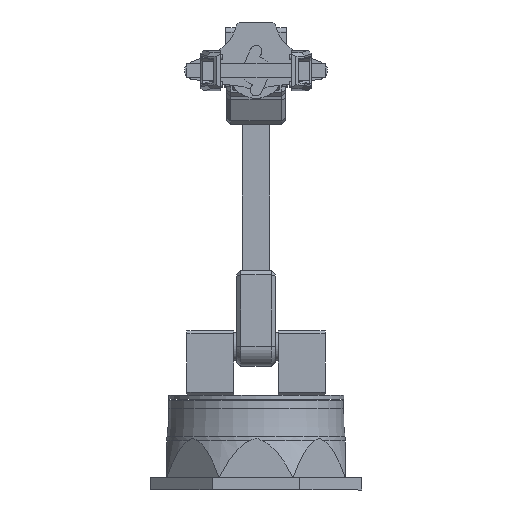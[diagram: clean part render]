
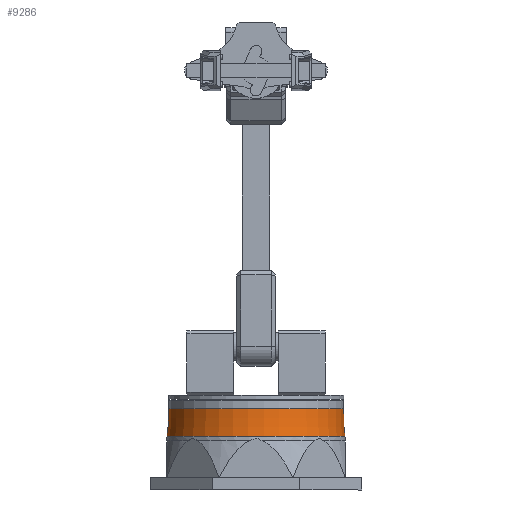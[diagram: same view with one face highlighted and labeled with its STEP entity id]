
A CAD part, front view. The second image highlights one B-rep face of the part: STEP entity #9286.
In plain terms, the highlighted toroidal (fillet/blend) face has major radius 263.5 mm and minor radius 200 mm.
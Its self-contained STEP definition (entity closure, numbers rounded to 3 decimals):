
#135=TOROIDAL_SURFACE('',#9976,263.5,200.);
#314=CIRCLE('',#9957,64.503);
#315=CIRCLE('',#9958,64.503);
#316=CIRCLE('',#9959,64.503);
#332=CIRCLE('',#9977,200.);
#333=CIRCLE('',#9978,63.5);
#334=CIRCLE('',#9979,63.5);
#335=CIRCLE('',#9980,63.5);
#657=FACE_OUTER_BOUND('',#1206,.T.);
#1206=EDGE_LOOP('',(#6294,#6295,#6296,#6297,#6298,#6299,#6300,#6301));
#3883=VERTEX_POINT('',#13783);
#3884=VERTEX_POINT('',#13785);
#3885=VERTEX_POINT('',#13787);
#3906=VERTEX_POINT('',#13835);
#3907=VERTEX_POINT('',#13837);
#3908=VERTEX_POINT('',#13839);
#4800=EDGE_CURVE('',#3884,#3883,#314,.T.);
#4801=EDGE_CURVE('',#3885,#3884,#315,.T.);
#4802=EDGE_CURVE('',#3883,#3885,#316,.T.);
#4826=EDGE_CURVE('',#3884,#3906,#332,.T.);
#4827=EDGE_CURVE('',#3906,#3907,#333,.T.);
#4828=EDGE_CURVE('',#3907,#3908,#334,.T.);
#4829=EDGE_CURVE('',#3908,#3906,#335,.T.);
#6294=ORIENTED_EDGE('',*,*,#4801,.T.);
#6295=ORIENTED_EDGE('',*,*,#4826,.T.);
#6296=ORIENTED_EDGE('',*,*,#4827,.T.);
#6297=ORIENTED_EDGE('',*,*,#4828,.T.);
#6298=ORIENTED_EDGE('',*,*,#4829,.T.);
#6299=ORIENTED_EDGE('',*,*,#4826,.F.);
#6300=ORIENTED_EDGE('',*,*,#4800,.T.);
#6301=ORIENTED_EDGE('',*,*,#4802,.T.);
#9286=ADVANCED_FACE('',(#657),#135,.F.);
#9957=AXIS2_PLACEMENT_3D('',#13786,#10939,#10940);
#9958=AXIS2_PLACEMENT_3D('',#13788,#10941,#10942);
#9959=AXIS2_PLACEMENT_3D('',#13789,#10943,#10944);
#9976=AXIS2_PLACEMENT_3D('',#13834,#10985,#10986);
#9977=AXIS2_PLACEMENT_3D('',#13836,#10987,#10988);
#9978=AXIS2_PLACEMENT_3D('',#13838,#10989,#10990);
#9979=AXIS2_PLACEMENT_3D('',#13840,#10991,#10992);
#9980=AXIS2_PLACEMENT_3D('',#13841,#10993,#10994);
#10939=DIRECTION('center_axis',(0.,1.,0.));
#10940=DIRECTION('ref_axis',(0.,0.,-1.));
#10941=DIRECTION('center_axis',(0.,1.,0.));
#10942=DIRECTION('ref_axis',(0.,0.,-1.));
#10943=DIRECTION('center_axis',(0.,1.,0.));
#10944=DIRECTION('ref_axis',(0.,0.,-1.));
#10985=DIRECTION('center_axis',(0.,1.,0.));
#10986=DIRECTION('ref_axis',(0.,0.,1.));
#10987=DIRECTION('center_axis',(-1.,0.,0.));
#10988=DIRECTION('ref_axis',(0.,0.,-1.));
#10989=DIRECTION('center_axis',(0.,-1.,0.));
#10990=DIRECTION('ref_axis',(0.,0.,-1.));
#10991=DIRECTION('center_axis',(0.,-1.,0.));
#10992=DIRECTION('ref_axis',(0.,0.,-1.));
#10993=DIRECTION('center_axis',(0.,-1.,0.));
#10994=DIRECTION('ref_axis',(0.,0.,-1.));
#13783=CARTESIAN_POINT('',(-64.503,29.825,0.));
#13785=CARTESIAN_POINT('',(0.,29.825,-64.503));
#13786=CARTESIAN_POINT('Origin',(0.,29.825,
0.));
#13787=CARTESIAN_POINT('',(64.503,29.825,0.));
#13788=CARTESIAN_POINT('Origin',(0.,29.825,
0.));
#13789=CARTESIAN_POINT('Origin',(0.,29.825,
0.));
#13834=CARTESIAN_POINT('Origin',(0.,49.825,0.));
#13835=CARTESIAN_POINT('',(0.,49.825,-63.5));
#13836=CARTESIAN_POINT('Origin',(0.,49.825,
-263.5));
#13837=CARTESIAN_POINT('',(63.5,49.825,0.));
#13838=CARTESIAN_POINT('Origin',(0.,49.825,0.));
#13839=CARTESIAN_POINT('',(-63.5,49.825,0.));
#13840=CARTESIAN_POINT('Origin',(0.,49.825,0.));
#13841=CARTESIAN_POINT('Origin',(0.,49.825,0.));
